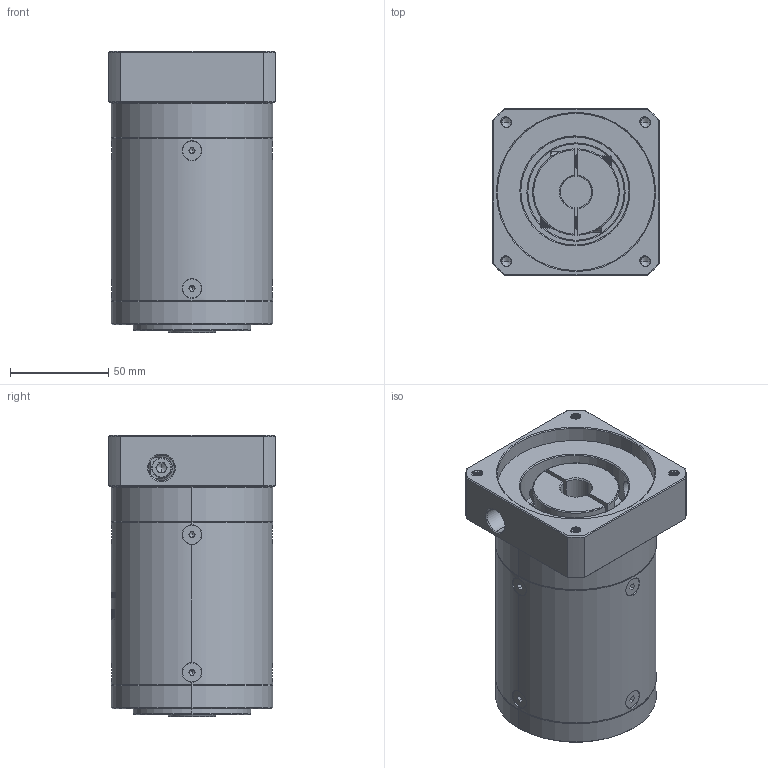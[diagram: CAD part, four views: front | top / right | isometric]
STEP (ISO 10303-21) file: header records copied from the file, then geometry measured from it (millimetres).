
FILE_DESCRIPTION (( 'STEP AP214' ), '1' );
FILE_NAME ('ZE80-K15-L3-16-80-100-M6.step', '2022-05-08T05:58:35', ( '' ), ( 'Microsoft' ), 'SwSTEP 2.0', 'SolidWorks 2016', '' );
FILE_SCHEMA (( 'AUTOMOTIVE_DESIGN' ));
Length unit declared in the file: millimetre
Products named in the file (1): ZE80-K15-L3-16-80-100-M6
Bounding box: 85 x 85 x 143 mm (x, y, z)
Volume: 698672.1 mm3; surface area: 94168.8 mm2
Topology: 13 solids, 13 shells, 2014 faces, 5241 edges, 3315 vertices
Faces by surface type: plane 884, cylinder 473, bspline 322, cone 318, torus 17
Entity records: 112115 total; most frequent: CARTESIAN_POINT 44772, ORIENTED_EDGE 10410, DIRECTION 8028, EDGE_CURVE 5205, VERTEX_POINT 3315, LINE 2816, VECTOR 2816, AXIS2_PLACEMENT_3D 2606
